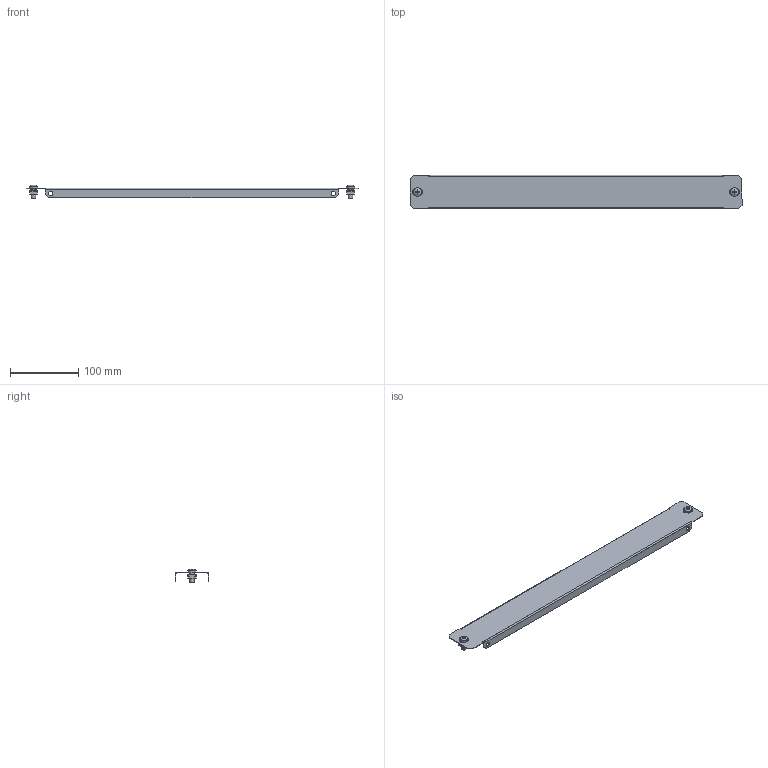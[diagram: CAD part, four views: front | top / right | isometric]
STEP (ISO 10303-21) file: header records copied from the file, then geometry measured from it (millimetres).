
FILE_DESCRIPTION (( 'STEP AP203' ), '1' );
FILE_NAME ('MA1.400.060000.01.00 Ïëàñòðîí Â50 Ø600 EKF AleSta-FP5M600.STEP', '2024-12-02T12:45:38', ( '' ), ( '' ), 'SwSTEP 2.0', 'SolidWorks 2021', '' );
FILE_SCHEMA (( 'CONFIG_CONTROL_DESIGN' ));
Length unit declared in the file: millimetre
Products named in the file (6): Ãàéêà çàêëàäêàÿ Ì6; MA1.400.060000.01.01 Ïëàñòðîí Â50 Ø600 EKF AleSta_˜=600; Ãàéêà çàêëàäíàÿ; Îáîëî÷êà ãàéêè çàêëàäíîé; pan head cross recess screw_din_DIN EN ISO 7045 - M6 x 16 - Z - 16N; MA1.400.060000.01.00 Ïëàñòðîí Â50 Ø600 EKF AleSta-FP5M600
Assembly tree (7 placements, depth 3):
  MA1.400.060000.01.00 Ïëàñòðîí Â50 Ø600 EKF AleSta-FP5M600
    MA1.400.060000.01.01 Ïëàñòðîí Â50 Ø600 EKF AleSta_˜=600
    Ãàéêà çàêëàäíàÿ  x2
      Îáîëî÷êà ãàéêè çàêëàäíîé
      Ãàéêà çàêëàäêàÿ Ì6
    pan head cross recess screw_din_DIN EN ISO 7045 - M6 x 16 - Z - 16N  x2
Bounding box: 486 x 49 x 20.48 mm (x, y, z)
Volume: 36686.1 mm3; surface area: 73039.7 mm2
Topology: 7 solids, 7 shells, 370 faces, 832 edges, 478 vertices
Faces by surface type: plane 242, cylinder 76, bspline 32, cone 14, torus 4, sphere 2
Full cylindrical faces by diameter (mm): 6 x4, 6.5 x4, 7 x2, 12 x2
Entity records: 6996 total; most frequent: CARTESIAN_POINT 1617, DIRECTION 954, ORIENTED_EDGE 952, EDGE_CURVE 476, LINE 336, VECTOR 336, AXIS2_PLACEMENT_3D 309, VERTEX_POINT 284
